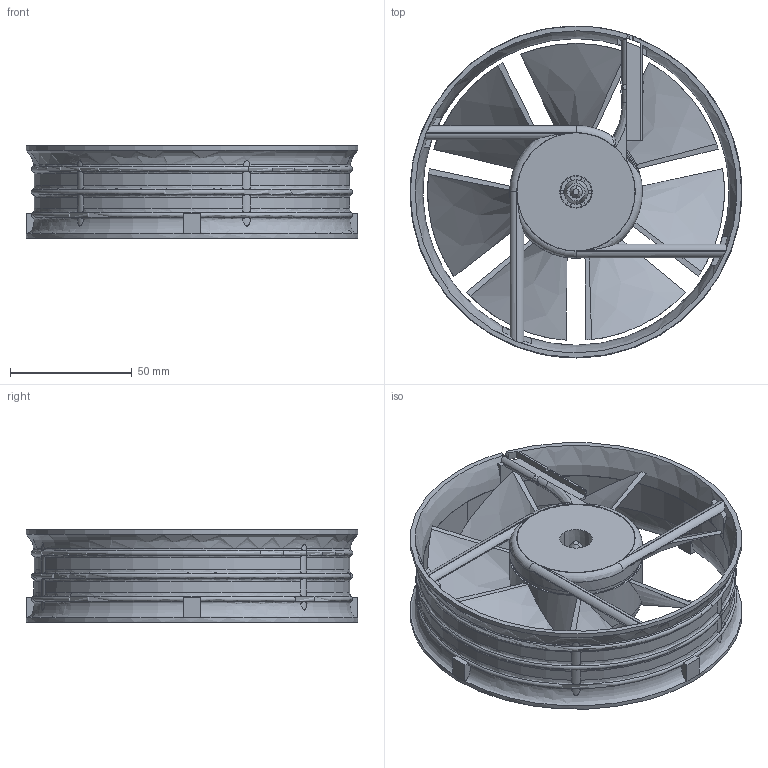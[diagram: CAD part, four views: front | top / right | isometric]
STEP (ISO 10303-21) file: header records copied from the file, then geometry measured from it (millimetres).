
FILE_DESCRIPTION((''),'2;1');
FILE_NAME('ASM0001_ASM','2023-04-12T',('zgy'),(''),'PRO/ENGINEER BY PARAMETRIC TECHNOLOGY CORPORATION, 2008380','PRO/ENGINEER BY PARAMETRIC TECHNOLOGY CORPORATION, 2008380','');
FILE_SCHEMA(('CONFIG_CONTROL_DESIGN'));
Products named in the file (3): PRT0001; PRT0003; ASM0001_ASM
Assembly tree (2 placements, depth 2):
  ASM0001_ASM
    PRT0001
    PRT0003
Bounding box: 136.39 x 136.4 x 37.85 mm (x, y, z)
Volume: 66798.8 mm3; surface area: 82702 mm2
Topology: 2 solids, 2 shells, 518 faces, 1569 edges, 1071 vertices
Faces by surface type: plane 222, cylinder 101, cone 76, bspline 45, torus 38, revolution 36
Entity records: 23664 total; most frequent: CARTESIAN_POINT 10333, ORIENTED_EDGE 3138, DIRECTION 2369, EDGE_CURVE 1569, VERTEX_POINT 1071, AXIS2_PLACEMENT_3D 968, B_SPLINE_CURVE_WITH_KNOTS 682, EDGE_LOOP 544
